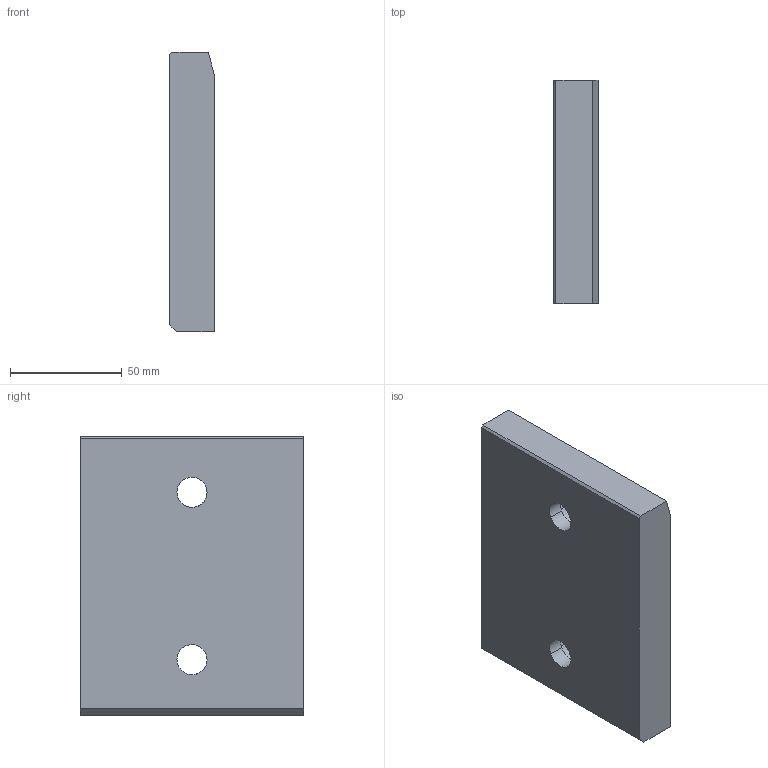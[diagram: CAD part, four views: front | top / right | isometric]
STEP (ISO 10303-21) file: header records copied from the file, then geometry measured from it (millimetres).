
FILE_DESCRIPTION (( 'STEP AP214' ), '1' );
FILE_NAME ('SW225-01-100x125.STEP', '2020-10-21T10:09:42', ( 'August' ), ( '' ), 'SwSTEP 2.0', 'SolidWorks 2018', '' );
FILE_SCHEMA (( 'AUTOMOTIVE_DESIGN' ));
Length unit declared in the file: millimetre
Products named in the file (1): SW225-01-100x125
Bounding box: 20 x 100 x 125 mm (x, y, z)
Volume: 237986.3 mm3; surface area: 35150.3 mm2
Topology: 1 solids, 1 shells, 20 faces, 48 edges, 32 vertices
Faces by surface type: plane 11, cylinder 9
Entity records: 690 total; most frequent: CARTESIAN_POINT 168, DIRECTION 102, ORIENTED_EDGE 96, EDGE_CURVE 48, AXIS2_PLACEMENT_3D 36, VERTEX_POINT 32, VECTOR 30, LINE 30
